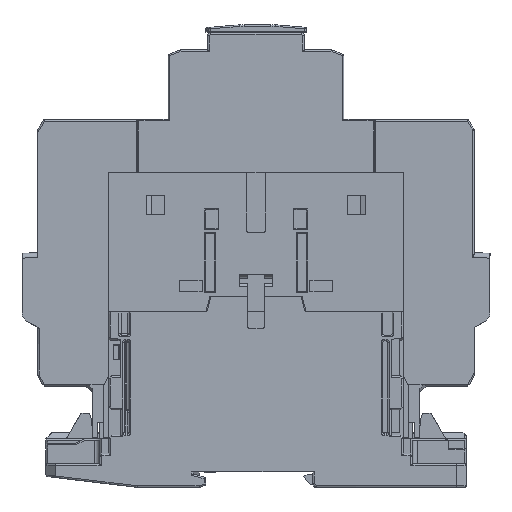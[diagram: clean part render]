
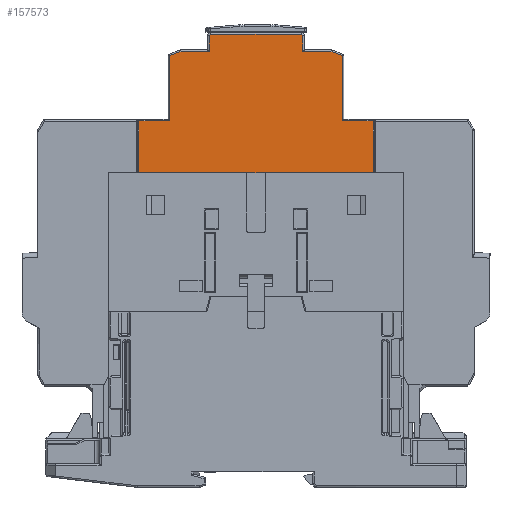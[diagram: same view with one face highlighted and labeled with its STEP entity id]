
A CAD part, left-side view. The second image highlights one B-rep face of the part: STEP entity #157573.
In plain terms, the highlighted planar face has unit normal (-1, 0, 0).
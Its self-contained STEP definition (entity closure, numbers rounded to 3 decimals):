
#366 = CARTESIAN_POINT ( 'NONE',  ( -40.665, -37.2, 38.453 ) ) ;
#412 = ORIENTED_EDGE ( 'NONE', *, *, #45260, .T. ) ;
#779 = LINE ( 'NONE', #188189, #79902 ) ;
#2752 = VERTEX_POINT ( 'NONE', #93073 ) ;
#4398 = CARTESIAN_POINT ( 'NONE',  ( -40.665, 0., 54.953 ) ) ;
#4786 = CARTESIAN_POINT ( 'NONE',  ( -40.665, 37.2, 38.453 ) ) ;
#6160 = CARTESIAN_POINT ( 'NONE',  ( -40.665, 14.9, 77.503 ) ) ;
#14636 = DIRECTION ( 'NONE',  ( 0., 1., 0. ) ) ;
#15992 = EDGE_CURVE ( 'NONE', #129053, #33504, #193798, .T. ) ;
#17074 = CARTESIAN_POINT ( 'NONE',  ( -40.665, -15.4, 77.003 ) ) ;
#17617 = EDGE_LOOP ( 'NONE', ( #31471, #154903, #155260, #33979, #45518, #151202, #185282, #113714, #113996, #179422, #75761, #412, #91766, #152085, #92377, #171941 ) ) ;
#19073 = DIRECTION ( 'NONE',  ( 0., 0., 1. ) ) ;
#19800 = LINE ( 'NONE', #94175, #46912 ) ;
#21106 = LINE ( 'NONE', #41985, #184285 ) ;
#21271 = LINE ( 'NONE', #114470, #142470 ) ;
#23767 = DIRECTION ( 'NONE',  ( 0., 0.936, -0.351 ) ) ;
#26145 = DIRECTION ( 'NONE',  ( 0., 0.936, 0.351 ) ) ;
#28978 = CARTESIAN_POINT ( 'NONE',  ( -40.665, -27.4, 54.953 ) ) ;
#29348 = VERTEX_POINT ( 'NONE', #188368 ) ;
#31471 = ORIENTED_EDGE ( 'NONE', *, *, #151987, .T. ) ;
#32239 = CARTESIAN_POINT ( 'NONE',  ( -40.665, 13.634, 83.262 ) ) ;
#32564 = EDGE_CURVE ( 'NONE', #73586, #33504, #779, .T. ) ;
#33025 = DIRECTION ( 'NONE',  ( 0., 1., 0. ) ) ;
#33504 = VERTEX_POINT ( 'NONE', #137866 ) ;
#33979 = ORIENTED_EDGE ( 'NONE', *, *, #85294, .T. ) ;
#35222 = CARTESIAN_POINT ( 'NONE',  ( -40.665, -14.393, 82.503 ) ) ;
#37257 = VECTOR ( 'NONE', #79694, 1000. ) ;
#40321 = EDGE_CURVE ( 'NONE', #202240, #189996, #174841, .T. ) ;
#41109 = PLANE ( 'NONE',  #133023 ) ;
#41985 = CARTESIAN_POINT ( 'NONE',  ( -40.665, -5.36, 83.922 ) ) ;
#43322 = LINE ( 'NONE', #6160, #75375 ) ;
#45260 = EDGE_CURVE ( 'NONE', #136413, #86939, #92292, .T. ) ;
#45518 = ORIENTED_EDGE ( 'NONE', *, *, #102098, .T. ) ;
#45738 = CARTESIAN_POINT ( 'NONE',  ( -40.665, 14.9, 81.996 ) ) ;
#46912 = VECTOR ( 'NONE', #62955, 1000. ) ;
#46932 = EDGE_CURVE ( 'NONE', #29348, #106027, #163440, .T. ) ;
#47659 = EDGE_CURVE ( 'NONE', #189996, #194964, #21106, .T. ) ;
#50296 = CARTESIAN_POINT ( 'NONE',  ( -40.665, 14.9, 77.003 ) ) ;
#55634 = VECTOR ( 'NONE', #14636, 1000. ) ;
#59365 = DIRECTION ( 'NONE',  ( 0., 0., 1. ) ) ;
#60089 = LINE ( 'NONE', #17074, #139353 ) ;
#60531 = LINE ( 'NONE', #188873, #55634 ) ;
#62955 = DIRECTION ( 'NONE',  ( 0., 1., 0. ) ) ;
#63620 = CARTESIAN_POINT ( 'NONE',  ( -40.665, -14.9, 82.203 ) ) ;
#66330 = VERTEX_POINT ( 'NONE', #105955 ) ;
#67869 = EDGE_CURVE ( 'NONE', #94581, #183610, #167221, .T. ) ;
#69707 = LINE ( 'NONE', #144390, #106834 ) ;
#70658 = CARTESIAN_POINT ( 'NONE',  ( -40.665, 5.36, 83.922 ) ) ;
#72649 = DIRECTION ( 'NONE',  ( 0., 0., -1. ) ) ;
#72836 = DIRECTION ( 'NONE',  ( -1., 0., 0. ) ) ;
#73586 = VERTEX_POINT ( 'NONE', #366 ) ;
#75147 = EDGE_CURVE ( 'NONE', #106027, #136413, #60531, .T. ) ;
#75375 = VECTOR ( 'NONE', #116839, 1000. ) ;
#75761 = ORIENTED_EDGE ( 'NONE', *, *, #75147, .T. ) ;
#76801 = CARTESIAN_POINT ( 'NONE',  ( -40.665, 14.393, 82.503 ) ) ;
#78028 = VECTOR ( 'NONE', #23767, 1000. ) ;
#79694 = DIRECTION ( 'NONE',  ( 0., 0.707, 0.707 ) ) ;
#79902 = VECTOR ( 'NONE', #204053, 1000. ) ;
#85294 = EDGE_CURVE ( 'NONE', #73586, #2752, #21271, .T. ) ;
#86939 = VERTEX_POINT ( 'NONE', #45738 ) ;
#91766 = ORIENTED_EDGE ( 'NONE', *, *, #188871, .T. ) ;
#91917 = VERTEX_POINT ( 'NONE', #50296 ) ;
#92292 = LINE ( 'NONE', #32239, #181428 ) ;
#92377 = ORIENTED_EDGE ( 'NONE', *, *, #67869, .T. ) ;
#93073 = CARTESIAN_POINT ( 'NONE',  ( -40.665, -37.2, 54.953 ) ) ;
#94175 = CARTESIAN_POINT ( 'NONE',  ( -40.665, 0., 77.003 ) ) ;
#94581 = VERTEX_POINT ( 'NONE', #97776 ) ;
#95118 = DIRECTION ( 'NONE',  ( 0., 0.707, -0.707 ) ) ;
#95666 = VECTOR ( 'NONE', #59365, 1000. ) ;
#97776 = CARTESIAN_POINT ( 'NONE',  ( -40.665, 23.809, 77.003 ) ) ;
#99151 = DIRECTION ( 'NONE',  ( 0., 1., 0. ) ) ;
#102098 = EDGE_CURVE ( 'NONE', #2752, #202240, #69707, .T. ) ;
#102561 = LINE ( 'NONE', #183350, #186647 ) ;
#104664 = VECTOR ( 'NONE', #131355, 1000. ) ;
#105955 = CARTESIAN_POINT ( 'NONE',  ( -40.665, -14.9, 77.003 ) ) ;
#106027 = VERTEX_POINT ( 'NONE', #35222 ) ;
#106834 = VECTOR ( 'NONE', #112528, 1000. ) ;
#108688 = EDGE_CURVE ( 'NONE', #66330, #29348, #165900, .T. ) ;
#108825 = CARTESIAN_POINT ( 'NONE',  ( -40.665, 37.2, 54.953 ) ) ;
#112528 = DIRECTION ( 'NONE',  ( 0., 1., 0. ) ) ;
#113714 = ORIENTED_EDGE ( 'NONE', *, *, #127658, .T. ) ;
#113996 = ORIENTED_EDGE ( 'NONE', *, *, #108688, .T. ) ;
#114470 = CARTESIAN_POINT ( 'NONE',  ( -40.665, -37.2, 55.453 ) ) ;
#116839 = DIRECTION ( 'NONE',  ( 0., 0., -1. ) ) ;
#119230 = CARTESIAN_POINT ( 'NONE',  ( -40.665, -27.4, 75.657 ) ) ;
#119943 = VERTEX_POINT ( 'NONE', #151233 ) ;
#127658 = EDGE_CURVE ( 'NONE', #194964, #66330, #60089, .T. ) ;
#128851 = VECTOR ( 'NONE', #173686, 1000. ) ;
#129053 = VERTEX_POINT ( 'NONE', #108825 ) ;
#129760 = EDGE_CURVE ( 'NONE', #91917, #94581, #19800, .T. ) ;
#131355 = DIRECTION ( 'NONE',  ( 0., 0., -1. ) ) ;
#133023 = AXIS2_PLACEMENT_3D ( 'NONE', #167687, #72836, #183550 ) ;
#136413 = VERTEX_POINT ( 'NONE', #76801 ) ;
#137866 = CARTESIAN_POINT ( 'NONE',  ( -40.665, 37.2, 38.453 ) ) ;
#139353 = VECTOR ( 'NONE', #33025, 1000. ) ;
#142470 = VECTOR ( 'NONE', #19073, 1000. ) ;
#144390 = CARTESIAN_POINT ( 'NONE',  ( -40.665, 0., 54.953 ) ) ;
#151202 = ORIENTED_EDGE ( 'NONE', *, *, #40321, .T. ) ;
#151233 = CARTESIAN_POINT ( 'NONE',  ( -40.665, 27.4, 54.953 ) ) ;
#151987 = EDGE_CURVE ( 'NONE', #119943, #129053, #180992, .T. ) ;
#152085 = ORIENTED_EDGE ( 'NONE', *, *, #129760, .T. ) ;
#153538 = CARTESIAN_POINT ( 'NONE',  ( -40.665, -23.809, 77.003 ) ) ;
#154174 = CARTESIAN_POINT ( 'NONE',  ( -40.665, -27.4, 76.003 ) ) ;
#154903 = ORIENTED_EDGE ( 'NONE', *, *, #15992, .T. ) ;
#155260 = ORIENTED_EDGE ( 'NONE', *, *, #32564, .F. ) ;
#157573 = ADVANCED_FACE ( 'NONE', ( #176688 ), #41109, .T. ) ;
#163440 = LINE ( 'NONE', #174518, #37257 ) ;
#165900 = LINE ( 'NONE', #63620, #128851 ) ;
#167221 = LINE ( 'NONE', #70658, #78028 ) ;
#167687 = CARTESIAN_POINT ( 'NONE',  ( -40.665, 0., 69.628 ) ) ;
#171941 = ORIENTED_EDGE ( 'NONE', *, *, #198768, .T. ) ;
#173686 = DIRECTION ( 'NONE',  ( 0., 0., 1. ) ) ;
#174518 = CARTESIAN_POINT ( 'NONE',  ( -40.665, -13.634, 83.262 ) ) ;
#174841 = LINE ( 'NONE', #154174, #95666 ) ;
#176083 = VECTOR ( 'NONE', #99151, 1000. ) ;
#176470 = CARTESIAN_POINT ( 'NONE',  ( -40.665, 27.4, 75.657 ) ) ;
#176688 = FACE_OUTER_BOUND ( 'NONE', #17617, .T. ) ;
#179422 = ORIENTED_EDGE ( 'NONE', *, *, #46932, .T. ) ;
#180992 = LINE ( 'NONE', #4398, #176083 ) ;
#181428 = VECTOR ( 'NONE', #95118, 1000. ) ;
#183350 = CARTESIAN_POINT ( 'NONE',  ( -40.665, 27.4, 55.453 ) ) ;
#183550 = DIRECTION ( 'NONE',  ( 0., -1., 0. ) ) ;
#183610 = VERTEX_POINT ( 'NONE', #176470 ) ;
#184285 = VECTOR ( 'NONE', #26145, 1000. ) ;
#185282 = ORIENTED_EDGE ( 'NONE', *, *, #47659, .T. ) ;
#186647 = VECTOR ( 'NONE', #72649, 1000. ) ;
#188189 = CARTESIAN_POINT ( 'NONE',  ( -40.665, -39.7, 38.453 ) ) ;
#188368 = CARTESIAN_POINT ( 'NONE',  ( -40.665, -14.9, 81.996 ) ) ;
#188871 = EDGE_CURVE ( 'NONE', #86939, #91917, #43322, .T. ) ;
#188873 = CARTESIAN_POINT ( 'NONE',  ( -40.665, 14.6, 82.503 ) ) ;
#189996 = VERTEX_POINT ( 'NONE', #119230 ) ;
#193798 = LINE ( 'NONE', #4786, #104664 ) ;
#194964 = VERTEX_POINT ( 'NONE', #153538 ) ;
#198768 = EDGE_CURVE ( 'NONE', #183610, #119943, #102561, .T. ) ;
#202240 = VERTEX_POINT ( 'NONE', #28978 ) ;
#204053 = DIRECTION ( 'NONE',  ( 0., 1., 0. ) ) ;
